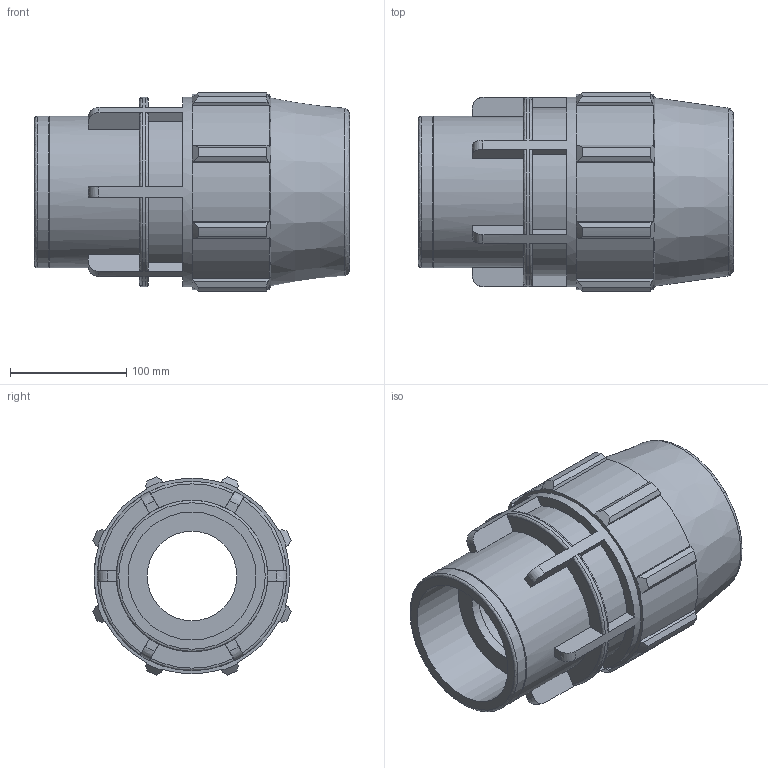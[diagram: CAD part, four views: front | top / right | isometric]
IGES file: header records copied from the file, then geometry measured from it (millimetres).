
Global section: file name: 0703061100400A.ipt; native system: Autodesk Inventor 2015; preprocessor: unknown; author: KIM; date: 20180325.201154; units: millimetre
Bounding box: 271 x 170.31 x 170.31 mm (x, y, z)
Volume: 2276927.3 mm3; surface area: 274988 mm2
Topology: 1 solids, 1 shells, 148 faces, 413 edges, 277 vertices
Faces by surface type: plane 86, revolution 25, cylinder 25, cone 12
Full cylindrical faces by diameter (mm): 130.32 x2, 162.9 x1
